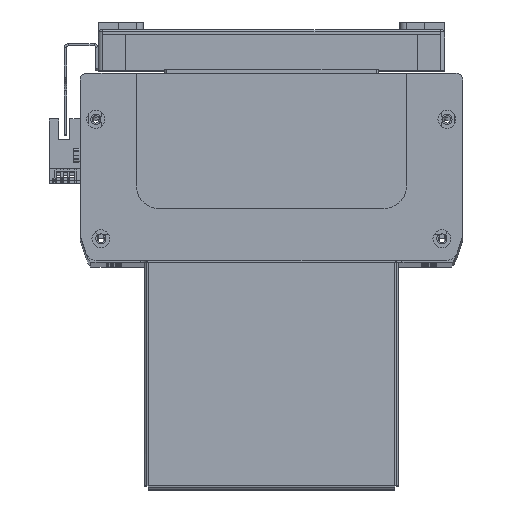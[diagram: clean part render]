
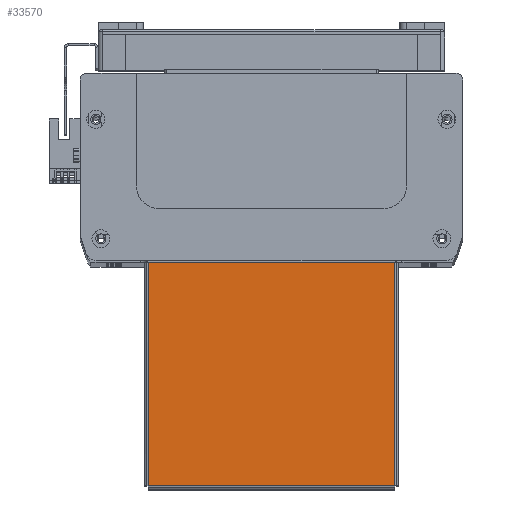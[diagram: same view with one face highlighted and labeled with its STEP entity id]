
A CAD part, top view. The second image highlights one B-rep face of the part: STEP entity #33570.
In plain terms, the highlighted planar face has unit normal (0, 0, 1).
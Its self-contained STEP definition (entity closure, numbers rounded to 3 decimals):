
#773 = LINE ( 'NONE', #50397, #788 ) ;
#788 = VECTOR ( 'NONE', #50398, 1000. ) ;
#817 = LINE ( 'NONE', #50435, #821 ) ;
#821 = VECTOR ( 'NONE', #50424, 1000. ) ;
#930 = VECTOR ( 'NONE', #50631, 1000. ) ;
#954 = LINE ( 'NONE', #50626, #930 ) ;
#1040 = LINE ( 'NONE', #49885, #1042 ) ;
#1042 = VECTOR ( 'NONE', #49886, 1000. ) ;
#7624 = PLANE ( 'NONE',  #8770 ) ;
#7626 = CARTESIAN_POINT ( 'NONE',  ( 0., 0., 0. ) ) ;
#7627 = DIRECTION ( 'NONE',  ( 0., 0., 1. ) ) ;
#7628 = DIRECTION ( 'NONE',  ( 1., 0., 0. ) ) ;
#8770 = AXIS2_PLACEMENT_3D ( 'NONE', #7626, #7627, #7628 ) ;
#17178 = FACE_OUTER_BOUND ( 'NONE', #23595, .T. ) ;
#23595 = EDGE_LOOP ( 'NONE', ( #36250, #36215, #36220, #36260 ) ) ;
#25644 = CARTESIAN_POINT ( 'NONE',  ( -54.763, -49.263, 0. ) ) ;
#25661 = CARTESIAN_POINT ( 'NONE',  ( -54.763, 50., 0. ) ) ;
#25726 = CARTESIAN_POINT ( 'NONE',  ( 54.763, -49.263, 0. ) ) ;
#25772 = CARTESIAN_POINT ( 'NONE',  ( 54.763, 50., 0. ) ) ;
#33570 = ADVANCED_FACE ( 'NONE', ( #17178 ), #7624, .T. ) ;
#34217 = EDGE_CURVE ( 'NONE', #43155, #43144, #773, .T. ) ;
#34234 = EDGE_CURVE ( 'NONE', #43111, #43155, #817, .T. ) ;
#34300 = EDGE_CURVE ( 'NONE', #43144, #43103, #954, .T. ) ;
#34387 = EDGE_CURVE ( 'NONE', #43103, #43111, #1040, .T. ) ;
#36215 = ORIENTED_EDGE ( 'NONE', *, *, #34234, .T. ) ;
#36220 = ORIENTED_EDGE ( 'NONE', *, *, #34217, .T. ) ;
#36250 = ORIENTED_EDGE ( 'NONE', *, *, #34387, .T. ) ;
#36260 = ORIENTED_EDGE ( 'NONE', *, *, #34300, .T. ) ;
#43103 = VERTEX_POINT ( 'NONE', #25661 ) ;
#43111 = VERTEX_POINT ( 'NONE', #25644 ) ;
#43144 = VERTEX_POINT ( 'NONE', #25772 ) ;
#43155 = VERTEX_POINT ( 'NONE', #25726 ) ;
#49885 = CARTESIAN_POINT ( 'NONE',  ( -54.763, 50., 0. ) ) ;
#49886 = DIRECTION ( 'NONE',  ( 0., -1., 0. ) ) ;
#50397 = CARTESIAN_POINT ( 'NONE',  ( 54.763, -49.293, 0. ) ) ;
#50398 = DIRECTION ( 'NONE',  ( 0., 1., 0. ) ) ;
#50424 = DIRECTION ( 'NONE',  ( 1., 0., 0. ) ) ;
#50435 = CARTESIAN_POINT ( 'NONE',  ( -54.793, -49.263, 0. ) ) ;
#50626 = CARTESIAN_POINT ( 'NONE',  ( -55.5, 50., 0. ) ) ;
#50631 = DIRECTION ( 'NONE',  ( -1., 0., 0. ) ) ;
